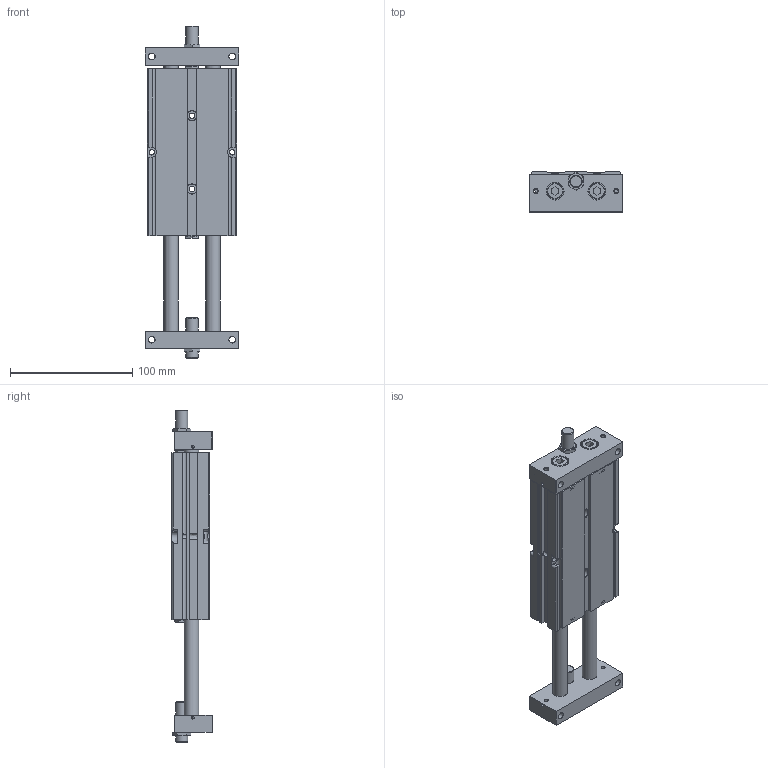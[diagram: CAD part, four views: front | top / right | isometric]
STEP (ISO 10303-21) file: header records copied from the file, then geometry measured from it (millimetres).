
FILE_DESCRIPTION((''),'2;1');
FILE_NAME('I:\3D電子目錄\氣缸\STU\STU\STU25\STU25x75.stp','2007-10-01T11:41:16',('Administrator'),(''),'Autodesk Inventor 11','Autodesk Inventor 11','');
FILE_SCHEMA(('AUTOMOTIVE_DESIGN { 1 0 10303 214 1 1 1 1 }'));
Length unit declared in the file: millimetre
Products named in the file (1): STU25
Bounding box: 77 x 33 x 272 mm (x, y, z)
Volume: 360576.1 mm3; surface area: 73020.3 mm2
Topology: 1 solids, 1 shells, 350 faces, 884 edges, 559 vertices
Faces by surface type: plane 163, cone 81, bspline 58, cylinder 44, torus 4
Full cylindrical faces by diameter (mm): 2.459 x2, 8 x2, 10 x4, 12 x2, 13 x4, 14 x4, 28 x2, 29.6 x2
Entity records: 11234 total; most frequent: CARTESIAN_POINT 3730, ORIENTED_EDGE 1484, DIRECTION 1462, EDGE_CURVE 742, AXIS2_PLACEMENT_3D 555, EDGE_LOOP 530, VERTEX_POINT 522, VECTOR 352
